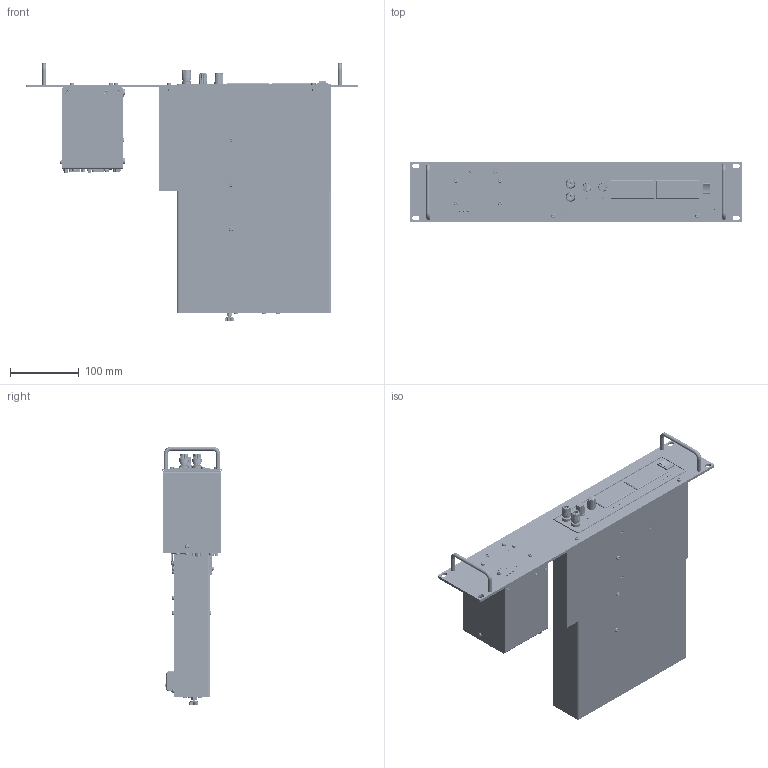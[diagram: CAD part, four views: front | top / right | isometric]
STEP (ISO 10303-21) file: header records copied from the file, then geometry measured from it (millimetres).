
FILE_DESCRIPTION(/* description */ (''),/* implementation_level */ '2;1');
FILE_NAME(/* name */ 'A:\Data\ES300\Option\RA19 1ES300-PSC ETH\step file\Assembly RA19-1 ES300-PSC-ETH.stp',/* time_stamp */ '2021-01-04T13:26:45+01:00',/* author */ ('Delta'),/* organization */ (''),/* preprocessor_version */ 'ST-DEVELOPER v17.2',/* originating_system */ 'Autodesk Inventor 2019',/* authorisation */ '');
FILE_SCHEMA (('AUTOMOTIVE_DESIGN { 1 0 10303 214 3 1 1 }'));
Products named in the file (1): _Assembly RA19-1 ES300-PSC-ETH_Shrinkwrap_1
Bounding box: 482.5 x 88.1 x 375.95 mm (x, y, z)
Surface area: 458563.6 mm2 (no closed solid volume)
Topology: 0 solids, 1 shells, 5562 faces, 13884 edges, 8801 vertices
Faces by surface type: plane 3247, cylinder 958, bspline 553, cone 492, torus 234, sphere 78
Full cylindrical faces by diameter (mm): 0.92 x30, 1 x16, 1.1 x15, 1.5 x8, 1.66 x30, 2 x1, 2.156 x8, 2.459 x4, 2.75 x2, 2.9 x6, 3 x6, 3.1 x6, 3.2 x6, 3.4 x4, 3.5 x178, 4 x12, 4.1 x4, 4.14 x4, 4.2 x4, 4.3 x4, 4.5 x8, 4.75 x4, 5 x1, 5.5 x5, 5.8 x1, 6 x77, 6.2 x1, 6.7 x2, 6.8 x4, 7 x1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
Entity records: 184201 total; most frequent: CARTESIAN_POINT 50082, ORIENTED_EDGE 27586, DIRECTION 25567, EDGE_CURVE 13793, AXIS2_PLACEMENT_3D 9058, VERTEX_POINT 8803, LINE 7451, VECTOR 7451
